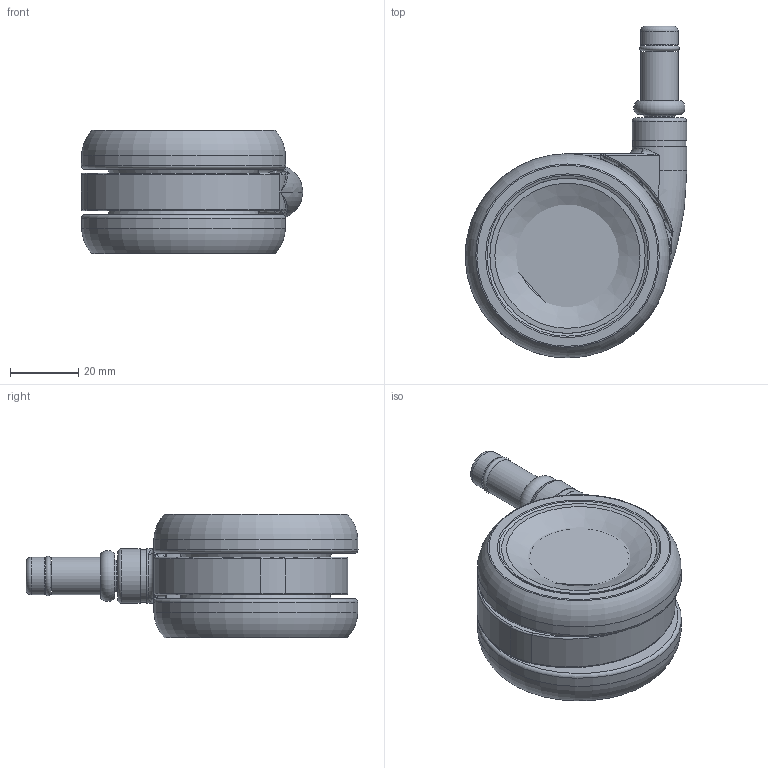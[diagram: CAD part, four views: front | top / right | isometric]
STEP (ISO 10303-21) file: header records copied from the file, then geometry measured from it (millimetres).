
FILE_DESCRIPTION (( 'STEP AP203' ), '1' );
FILE_NAME ('K09U中空キャスター(リング).STEP', '2025-04-11T04:23:18', ( '' ), ( '' ), 'SwSTEP 2.0', 'SolidWorks 2025', '' );
FILE_SCHEMA (( 'CONFIG_CONTROL_DESIGN' ));
Length unit declared in the file: millimetre
Products named in the file (4): リング縦軸; K09U中空キャスター(リング); TPU車輪; 本体
Assembly tree (4 placements, depth 2):
  K09U中空キャスター(リング)
    本体
    リング縦軸
    TPU車輪  x2
Bounding box: 65 x 97.5 x 36.4 mm (x, y, z)
Volume: 74262.9 mm3; surface area: 53110.7 mm2
Topology: 9 solids, 10 shells, 453 faces, 1302 edges, 793 vertices
Faces by surface type: plane 212, cylinder 98, torus 64, cone 45, bspline 30, sphere 4
Full cylindrical faces by diameter (mm): 2.3 x45, 7.5 x1, 7.7 x1, 9 x2, 9.4 x2, 11 x2, 15.6 x1, 16 x2, 34 x2, 34.95 x1, 35 x1, 36 x4, 36.4 x4, 38.35 x3, 44.15 x3, 46 x2, 46.95 x1, 47 x1, 54.897 x4
Entity records: 13358 total; most frequent: CARTESIAN_POINT 5078, DIRECTION 1620, ORIENTED_EDGE 1484, EDGE_CURVE 742, AXIS2_PLACEMENT_3D 733, EDGE_LOOP 591, VERTEX_POINT 523, FACE_OUTER_BOUND 439
